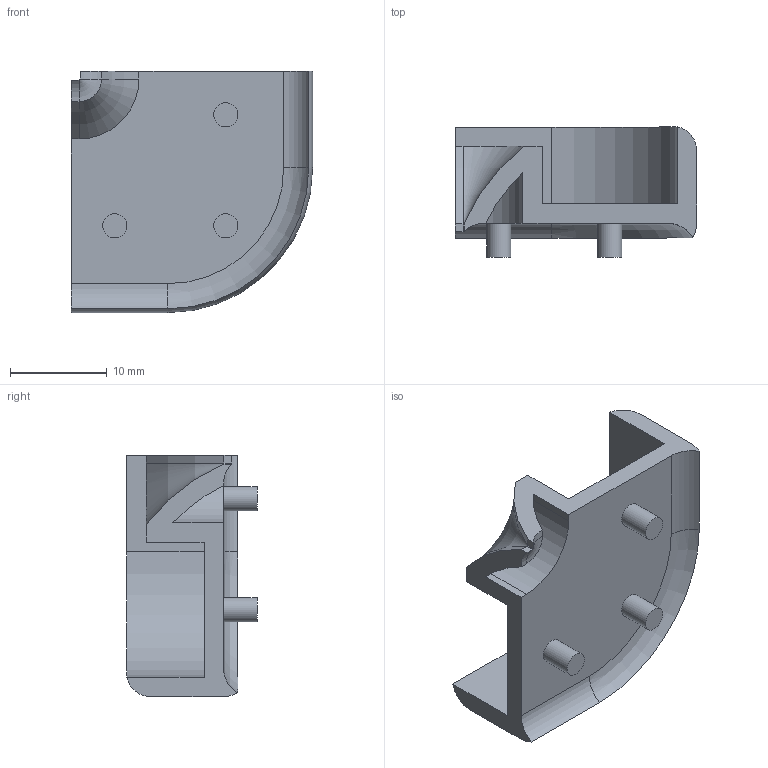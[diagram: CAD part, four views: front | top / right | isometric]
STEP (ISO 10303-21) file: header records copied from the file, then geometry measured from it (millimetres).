
FILE_DESCRIPTION (( 'STEP AP214' ), '1' );
FILE_NAME ('L15822.step', '2024-12-03T16:19:24', ( '' ), ( '' ), 'SwSTEP 2.0', 'SolidWorks 2023', '' );
FILE_SCHEMA (( 'AUTOMOTIVE_DESIGN' ));
Length unit declared in the file: millimetre
Products named in the file (1): L15822
Bounding box: 25 x 13.5 x 25 mm (x, y, z)
Volume: 2080.1 mm3; surface area: 2374.8 mm2
Topology: 1 solids, 1 shells, 44 faces, 101 edges, 62 vertices
Faces by surface type: cylinder 20, plane 18, torus 6
Full cylindrical faces by diameter (mm): 2.5 x3
Entity records: 1249 total; most frequent: DIRECTION 232, CARTESIAN_POINT 205, ORIENTED_EDGE 196, EDGE_CURVE 98, AXIS2_PLACEMENT_3D 89, VERTEX_POINT 62, LINE 54, VECTOR 54
